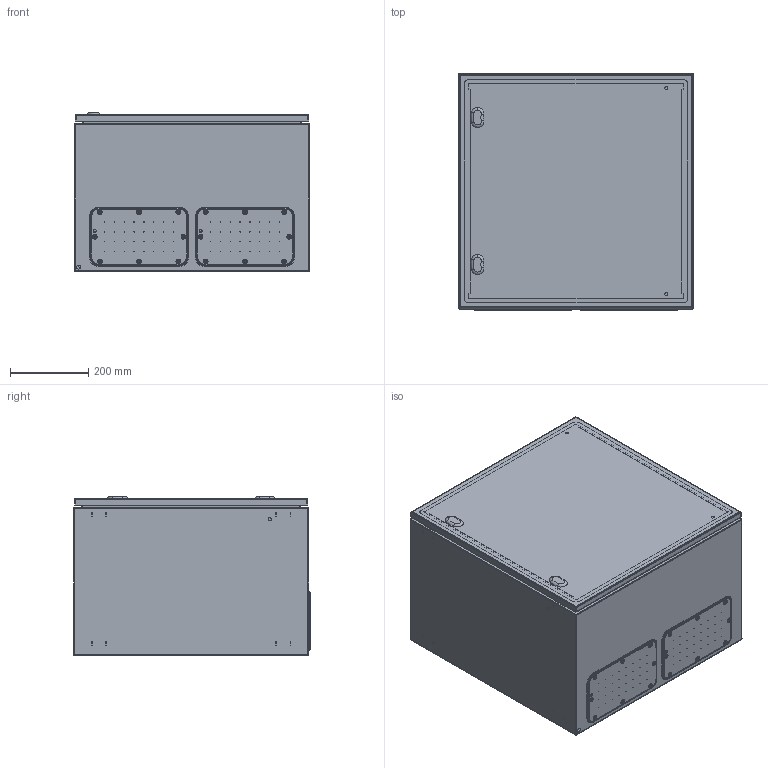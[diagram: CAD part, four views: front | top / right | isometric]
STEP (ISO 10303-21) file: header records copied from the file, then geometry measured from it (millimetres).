
FILE_DESCRIPTION (( 'STEP AP203' ), '1' );
FILE_NAME ('APRO06640BC.STEP', '2022-01-05T14:03:57', ( '' ), ( '' ), 'SwSTEP 2.0', 'SolidWorks 2021', '' );
FILE_SCHEMA (( 'CONFIG_CONTROL_DESIGN' ));
Length unit declared in the file: millimetre
Products named in the file (8): 03008080701_04; AR_ECOR_montaggio_porta_singola_0600x0600; APRO06640BC; AR_BOX ABACUS PRO_involucro_0600x0600x0400; AR_ECOR_flangia IC_03; AR_ECOR_porta_singola_0600x0600; 03008060001_06; AR_ECOR_chiusura_std_STD
Assembly tree (13 placements, depth 3):
  APRO06640BC
    AR_BOX ABACUS PRO_involucro_0600x0600x0400
    AR_ECOR_montaggio_porta_singola_0600x0600
      AR_ECOR_porta_singola_0600x0600
      AR_ECOR_chiusura_std_STD  x2
    AR_ECOR_flangia IC_03  x2
    03008060001_06  x4
    03008080701_04  x2
Bounding box: 600 x 604 x 405 mm (x, y, z)
Volume: 3047426.8 mm3; surface area: 4053921.7 mm2
Topology: 12 solids, 12 shells, 3483 faces, 9483 edges, 5878 vertices
Faces by surface type: plane 2166, cylinder 1047, cone 108, torus 78, bspline 68, sphere 16
Entity records: 51178 total; most frequent: CARTESIAN_POINT 9839, DIRECTION 8369, ORIENTED_EDGE 8368, EDGE_CURVE 4184, LINE 2867, VECTOR 2867, AXIS2_PLACEMENT_3D 2751, VERTEX_POINT 2642
